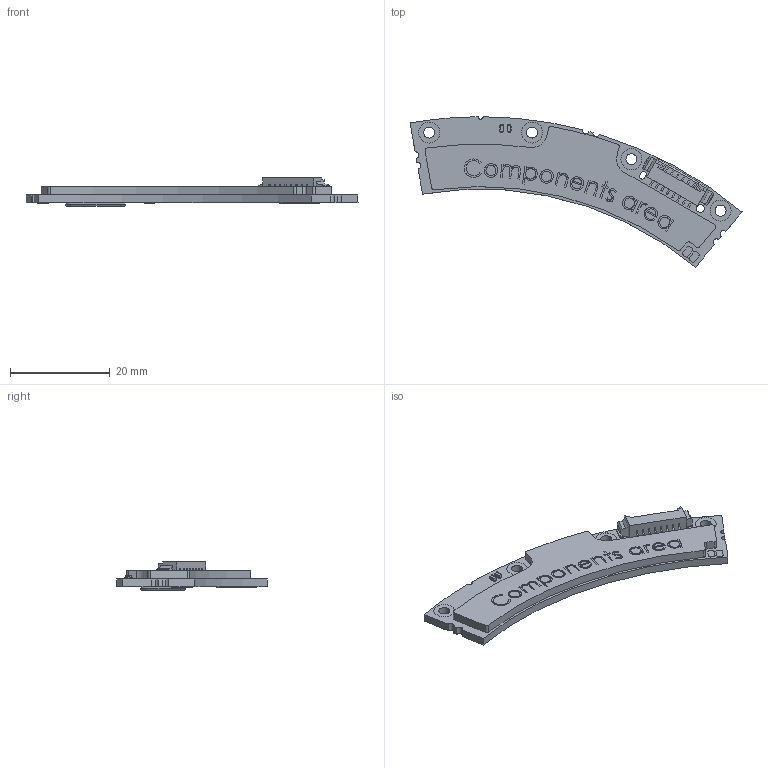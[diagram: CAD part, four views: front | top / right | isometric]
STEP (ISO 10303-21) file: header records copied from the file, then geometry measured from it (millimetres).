
FILE_DESCRIPTION (( 'STEP AP214' ), '1' );
FILE_NAME ('TIV_AksIM-4_MC150-DN_s_pokrovèkom.STEP', '2023-03-15T11:46:15', ( '' ), ( '' ), 'SwSTEP 2.0', 'SolidWorks 2020', '' );
FILE_SCHEMA (( 'AUTOMOTIVE_DESIGN' ));
Length unit declared in the file: millimetre
Products named in the file (1): TIV_AksIM-4_MC150-DN_s_pokrovèkom
Bounding box: 66.55 x 30.17 x 5.7 mm (x, y, z)
Volume: 2587 mm3; surface area: 3185.4 mm2
Topology: 9 solids, 9 shells, 667 faces, 1853 edges, 1240 vertices
Faces by surface type: plane 444, bspline 117, cylinder 102, torus 4
Entity records: 34113 total; most frequent: CARTESIAN_POINT 10462, ORIENTED_EDGE 3706, DIRECTION 2787, EDGE_CURVE 1853, VECTOR 1321, LINE 1321, VERTEX_POINT 1240, EDGE_LOOP 733
